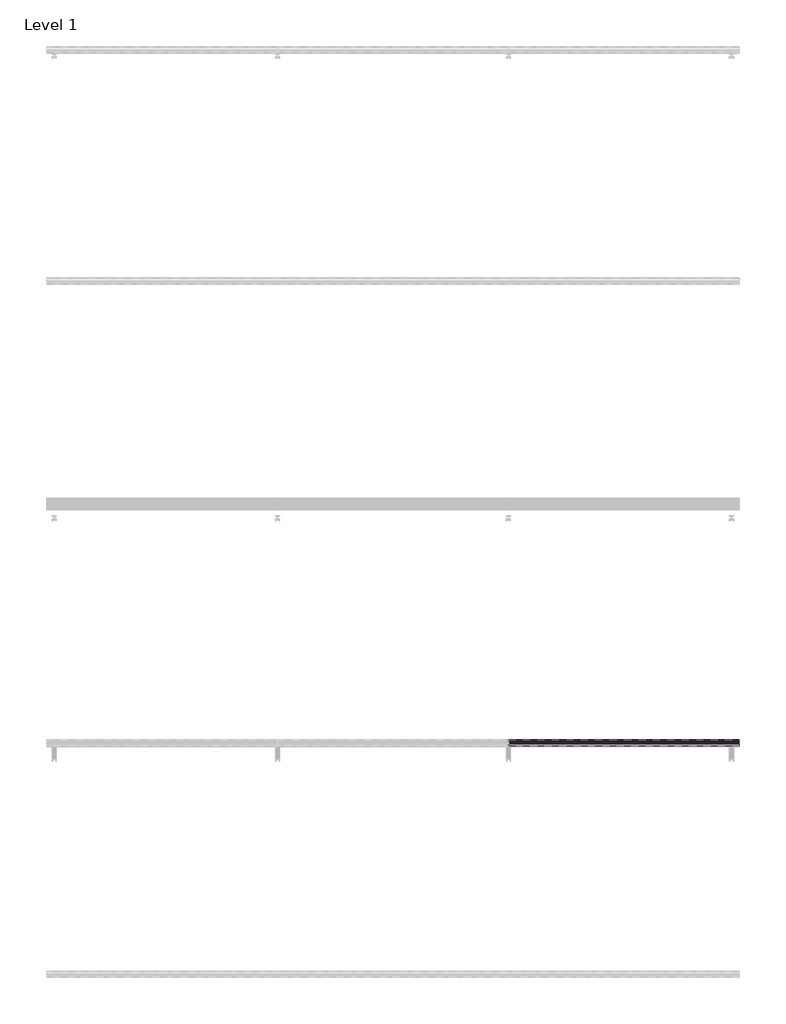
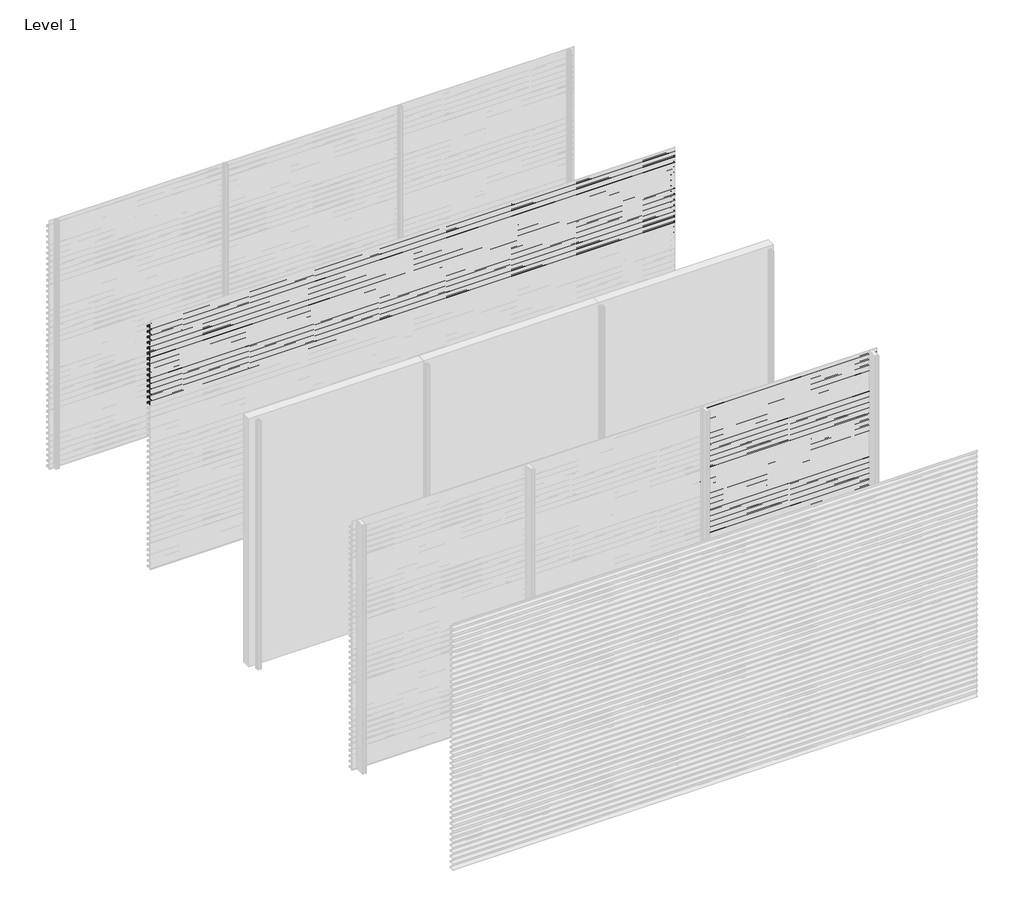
# One storey, part 7 of 27: 71 proxies.
"""IFC4 building model written with IfcOpenShell, lengths in millimetres."""

from ifc_helpers import new_model, si_unit, frame, origin, place, context, project, spatial, polyline, outline, extrude, element, save

model = new_model("IFC4")

# Units and contexts
model_context = context("Model", 3, world=origin())
ifc_project = project(units=[si_unit("LENGTHUNIT", "METRE", prefix="MILLI")], contexts=[model_context])

# Site, building, storey
site = spatial("IfcSite", under=ifc_project)
building = spatial("IfcBuilding", under=site)
storey = spatial("IfcBuildingStorey", under=building, Name="Level 1", Elevation=0.0)

# Proxies
placement = place(None, origin())
element("IfcBuildingElementProxy", 1, Name="Wall Sweeps", at=placement, inside=storey, context=model_context, shape_type="SweptSolid", body=[
    extrude(outline(polyline([(-43943.0, 2913.2), (-43943.0, 2893.5), (-43944.25, 2894.5866084), (-43944.25, 2912.4872415), (-43963.0322086, 2925.6010889), (-43995.1332975, 2893.5), (-43996.0525363, 2894.4192388), (-43964.1148087, 2926.3569665), (-43998.0, 2950.0158044), (-43998.0, 2970.0), (-43996.75, 2970.0), (-43996.75, 2950.7285629), (-43943.0, 2913.2)])), frame((0.0, 0.0, 0.0), z_axis=(1.0, 0.0, 0.0), x_axis=(0.0, 1.0, 0.0)), (0.0, 0.0, 1.0), 6000.0),
])
element("IfcBuildingElementProxy", 2, Name="Wall Sweeps", at=placement, inside=storey, context=model_context, shape_type="SweptSolid", body=[
    extrude(outline(polyline([(-43943.0, 2847.2), (-43943.0, 2827.5), (-43944.25, 2828.5866084), (-43944.25, 2846.4872415), (-43963.0322086, 2859.6010889), (-43995.1332975, 2827.5), (-43996.0525363, 2828.4192388), (-43964.1148087, 2860.3569665), (-43998.0, 2884.0158044), (-43998.0, 2904.0), (-43996.75, 2904.0), (-43996.75, 2884.7285629), (-43943.0, 2847.2)])), frame((0.0, 0.0, 0.0), z_axis=(1.0, 0.0, 0.0), x_axis=(0.0, 1.0, 0.0)), (0.0, 0.0, 1.0), 6000.0),
])
element("IfcBuildingElementProxy", 3, Name="Wall Sweeps", at=placement, inside=storey, context=model_context, shape_type="SweptSolid", body=[
    extrude(outline(polyline([(-43943.0, 2781.2), (-43943.0, 2761.5), (-43944.25, 2762.5866084), (-43944.25, 2780.4872415), (-43963.0322086, 2793.6010889), (-43995.1332975, 2761.5), (-43996.0525363, 2762.4192388), (-43964.1148087, 2794.3569665), (-43998.0, 2818.0158044), (-43998.0, 2838.0), (-43996.75, 2838.0), (-43996.75, 2818.7285629), (-43943.0, 2781.2)])), frame((0.0, 0.0, 0.0), z_axis=(1.0, 0.0, 0.0), x_axis=(0.0, 1.0, 0.0)), (0.0, 0.0, 1.0), 6000.0),
])
element("IfcBuildingElementProxy", 4, Name="Wall Sweeps", at=placement, inside=storey, context=model_context, shape_type="SweptSolid", body=[
    extrude(outline(polyline([(-43943.0, 2715.2), (-43943.0, 2695.5), (-43944.25, 2696.5866084), (-43944.25, 2714.4872415), (-43963.0322086, 2727.6010889), (-43995.1332975, 2695.5), (-43996.0525363, 2696.4192388), (-43964.1148087, 2728.3569665), (-43998.0, 2752.0158044), (-43998.0, 2772.0), (-43996.75, 2772.0), (-43996.75, 2752.7285629), (-43943.0, 2715.2)])), frame((0.0, 0.0, 0.0), z_axis=(1.0, 0.0, 0.0), x_axis=(0.0, 1.0, 0.0)), (0.0, 0.0, 1.0), 6000.0),
])
element("IfcBuildingElementProxy", 5, Name="Wall Sweeps", at=placement, inside=storey, context=model_context, shape_type="SweptSolid", body=[
    extrude(outline(polyline([(-43943.0, 2649.2), (-43943.0, 2629.5), (-43944.25, 2630.5866084), (-43944.25, 2648.4872415), (-43963.0322086, 2661.6010889), (-43995.1332975, 2629.5), (-43996.0525363, 2630.4192388), (-43964.1148087, 2662.3569665), (-43998.0, 2686.0158044), (-43998.0, 2706.0), (-43996.75, 2706.0), (-43996.75, 2686.7285629), (-43943.0, 2649.2)])), frame((0.0, 0.0, 0.0), z_axis=(1.0, 0.0, 0.0), x_axis=(0.0, 1.0, 0.0)), (0.0, 0.0, 1.0), 6000.0),
])
element("IfcBuildingElementProxy", 6, Name="Wall Sweeps", at=placement, inside=storey, context=model_context, shape_type="SweptSolid", body=[
    extrude(outline(polyline([(-43943.0, 2583.2), (-43943.0, 2563.5), (-43944.25, 2564.5866084), (-43944.25, 2582.4872415), (-43963.0322086, 2595.6010889), (-43995.1332975, 2563.5), (-43996.0525363, 2564.4192388), (-43964.1148087, 2596.3569665), (-43998.0, 2620.0158044), (-43998.0, 2640.0), (-43996.75, 2640.0), (-43996.75, 2620.7285629), (-43943.0, 2583.2)])), frame((0.0, 0.0, 0.0), z_axis=(1.0, 0.0, 0.0), x_axis=(0.0, 1.0, 0.0)), (0.0, 0.0, 1.0), 6000.0),
])
element("IfcBuildingElementProxy", 7, Name="Wall Sweeps", at=placement, inside=storey, context=model_context, shape_type="SweptSolid", body=[
    extrude(outline(polyline([(-43943.0, 2517.2), (-43943.0, 2497.5), (-43944.25, 2498.5866084), (-43944.25, 2516.4872415), (-43963.0322086, 2529.6010889), (-43995.1332975, 2497.5), (-43996.0525363, 2498.4192388), (-43964.1148087, 2530.3569665), (-43998.0, 2554.0158044), (-43998.0, 2574.0), (-43996.75, 2574.0), (-43996.75, 2554.7285629), (-43943.0, 2517.2)])), frame((0.0, 0.0, 0.0), z_axis=(1.0, 0.0, 0.0), x_axis=(0.0, 1.0, 0.0)), (0.0, 0.0, 1.0), 6000.0),
])
element("IfcBuildingElementProxy", 8, Name="Wall Sweeps", at=placement, inside=storey, context=model_context, shape_type="SweptSolid", body=[
    extrude(outline(polyline([(-43943.0, 2451.2), (-43943.0, 2431.5), (-43944.25, 2432.5866084), (-43944.25, 2450.4872415), (-43963.0322086, 2463.6010889), (-43995.1332975, 2431.5), (-43996.0525363, 2432.4192388), (-43964.1148087, 2464.3569665), (-43998.0, 2488.0158044), (-43998.0, 2508.0), (-43996.75, 2508.0), (-43996.75, 2488.7285629), (-43943.0, 2451.2)])), frame((0.0, 0.0, 0.0), z_axis=(1.0, 0.0, 0.0), x_axis=(0.0, 1.0, 0.0)), (0.0, 0.0, 1.0), 6000.0),
])
element("IfcBuildingElementProxy", 9, Name="Wall Sweeps", at=placement, inside=storey, context=model_context, shape_type="SweptSolid", body=[
    extrude(outline(polyline([(-43943.0, 2385.2), (-43943.0, 2365.5), (-43944.25, 2366.5866084), (-43944.25, 2384.4872415), (-43963.0322086, 2397.6010889), (-43995.1332975, 2365.5), (-43996.0525363, 2366.4192388), (-43964.1148087, 2398.3569665), (-43998.0, 2422.0158044), (-43998.0, 2442.0), (-43996.75, 2442.0), (-43996.75, 2422.7285629), (-43943.0, 2385.2)])), frame((0.0, 0.0, 0.0), z_axis=(1.0, 0.0, 0.0), x_axis=(0.0, 1.0, 0.0)), (0.0, 0.0, 1.0), 6000.0),
])
element("IfcBuildingElementProxy", 10, Name="Wall Sweeps", at=placement, inside=storey, context=model_context, shape_type="SweptSolid", body=[
    extrude(outline(polyline([(-43943.0, 2319.2), (-43943.0, 2299.5), (-43944.25, 2300.5866084), (-43944.25, 2318.4872415), (-43963.0322086, 2331.6010889), (-43995.1332975, 2299.5), (-43996.0525363, 2300.4192388), (-43964.1148087, 2332.3569665), (-43998.0, 2356.0158044), (-43998.0, 2376.0), (-43996.75, 2376.0), (-43996.75, 2356.7285629), (-43943.0, 2319.2)])), frame((0.0, 0.0, 0.0), z_axis=(1.0, 0.0, 0.0), x_axis=(0.0, 1.0, 0.0)), (0.0, 0.0, 1.0), 6000.0),
])
element("IfcBuildingElementProxy", 11, Name="Wall Sweeps", at=placement, inside=storey, context=model_context, shape_type="SweptSolid", body=[
    extrude(outline(polyline([(-43943.0, 2253.2), (-43943.0, 2233.5), (-43944.25, 2234.5866084), (-43944.25, 2252.4872415), (-43963.0322086, 2265.6010889), (-43995.1332975, 2233.5), (-43996.0525363, 2234.4192388), (-43964.1148087, 2266.3569665), (-43998.0, 2290.0158044), (-43998.0, 2310.0), (-43996.75, 2310.0), (-43996.75, 2290.7285629), (-43943.0, 2253.2)])), frame((0.0, 0.0, 0.0), z_axis=(1.0, 0.0, 0.0), x_axis=(0.0, 1.0, 0.0)), (0.0, 0.0, 1.0), 6000.0),
])
element("IfcBuildingElementProxy", 12, Name="Wall Sweeps", at=placement, inside=storey, context=model_context, shape_type="SweptSolid", body=[
    extrude(outline(polyline([(-43943.0, 2187.2), (-43943.0, 2167.5), (-43944.25, 2168.5866084), (-43944.25, 2186.4872415), (-43963.0322086, 2199.6010889), (-43995.1332975, 2167.5), (-43996.0525363, 2168.4192388), (-43964.1148087, 2200.3569665), (-43998.0, 2224.0158044), (-43998.0, 2244.0), (-43996.75, 2244.0), (-43996.75, 2224.7285629), (-43943.0, 2187.2)])), frame((0.0, 0.0, 0.0), z_axis=(1.0, 0.0, 0.0), x_axis=(0.0, 1.0, 0.0)), (0.0, 0.0, 1.0), 6000.0),
])
element("IfcBuildingElementProxy", 13, Name="Wall Sweeps", at=placement, inside=storey, context=model_context, shape_type="SweptSolid", body=[
    extrude(outline(polyline([(-43943.0, 2121.2), (-43943.0, 2101.5), (-43944.25, 2102.5866084), (-43944.25, 2120.4872415), (-43963.0322086, 2133.6010889), (-43995.1332975, 2101.5), (-43996.0525363, 2102.4192388), (-43964.1148087, 2134.3569665), (-43998.0, 2158.0158044), (-43998.0, 2178.0), (-43996.75, 2178.0), (-43996.75, 2158.7285629), (-43943.0, 2121.2)])), frame((0.0, 0.0, 0.0), z_axis=(1.0, 0.0, 0.0), x_axis=(0.0, 1.0, 0.0)), (0.0, 0.0, 1.0), 6000.0),
])
element("IfcBuildingElementProxy", 14, Name="Wall Sweeps", at=placement, inside=storey, context=model_context, shape_type="SweptSolid", body=[
    extrude(outline(polyline([(-43943.0, 2055.2), (-43943.0, 2035.5), (-43944.25, 2036.5866084), (-43944.25, 2054.4872415), (-43963.0322086, 2067.6010889), (-43995.1332975, 2035.5), (-43996.0525363, 2036.4192388), (-43964.1148087, 2068.3569665), (-43998.0, 2092.0158044), (-43998.0, 2112.0), (-43996.75, 2112.0), (-43996.75, 2092.7285629), (-43943.0, 2055.2)])), frame((0.0, 0.0, 0.0), z_axis=(1.0, 0.0, 0.0), x_axis=(0.0, 1.0, 0.0)), (0.0, 0.0, 1.0), 6000.0),
])
element("IfcBuildingElementProxy", 15, Name="Wall Sweeps", at=placement, inside=storey, context=model_context, shape_type="SweptSolid", body=[
    extrude(outline(polyline([(-43943.0, 1989.2), (-43943.0, 1969.5), (-43944.25, 1970.5866084), (-43944.25, 1988.4872415), (-43963.0322086, 2001.6010889), (-43995.1332975, 1969.5), (-43996.0525363, 1970.4192388), (-43964.1148087, 2002.3569665), (-43998.0, 2026.0158044), (-43998.0, 2046.0), (-43996.75, 2046.0), (-43996.75, 2026.7285629), (-43943.0, 1989.2)])), frame((0.0, 0.0, 0.0), z_axis=(1.0, 0.0, 0.0), x_axis=(0.0, 1.0, 0.0)), (0.0, 0.0, 1.0), 6000.0),
])
element("IfcBuildingElementProxy", 16, Name="Wall Sweeps", at=placement, inside=storey, context=model_context, shape_type="SweptSolid", body=[
    extrude(outline(polyline([(-47943.0, 669.2), (-47943.0, 649.5), (-47944.25, 650.5866084), (-47944.25, 668.4872415), (-47963.0322086, 681.6010889), (-47995.1332975, 649.5), (-47996.0525363, 650.4192388), (-47964.1148087, 682.3569665), (-47998.0, 706.0158044), (-47998.0, 726.0), (-47996.75, 726.0), (-47996.75, 706.7285629), (-47943.0, 669.2)])), frame((2000.0, 0.0, 0.0), z_axis=(1.0, 0.0, 0.0), x_axis=(0.0, 1.0, 0.0)), (0.0, 0.0, 1.0), 2000.0),
])
element("IfcBuildingElementProxy", 17, Name="Wall Sweeps", at=placement, inside=storey, context=model_context, shape_type="SweptSolid", body=[
    extrude(outline(polyline([(-47943.0, 603.2), (-47943.0, 583.5), (-47944.25, 584.5866084), (-47944.25, 602.4872415), (-47963.0322086, 615.6010889), (-47995.1332975, 583.5), (-47996.0525363, 584.4192388), (-47964.1148087, 616.3569665), (-47998.0, 640.0158044), (-47998.0, 660.0), (-47996.75, 660.0), (-47996.75, 640.7285629), (-47943.0, 603.2)])), frame((2000.0, 0.0, 0.0), z_axis=(1.0, 0.0, 0.0), x_axis=(0.0, 1.0, 0.0)), (0.0, 0.0, 1.0), 2000.0),
])
element("IfcBuildingElementProxy", 18, Name="Wall Sweeps", at=placement, inside=storey, context=model_context, shape_type="SweptSolid", body=[
    extrude(outline(polyline([(-47943.0, 537.2), (-47943.0, 517.5), (-47944.25, 518.5866084), (-47944.25, 536.4872415), (-47963.0322086, 549.6010889), (-47995.1332975, 517.5), (-47996.0525363, 518.4192388), (-47964.1148087, 550.3569665), (-47998.0, 574.0158044), (-47998.0, 594.0), (-47996.75, 594.0), (-47996.75, 574.7285629), (-47943.0, 537.2)])), frame((2000.0, 0.0, 0.0), z_axis=(1.0, 0.0, 0.0), x_axis=(0.0, 1.0, 0.0)), (0.0, 0.0, 1.0), 2000.0),
])
element("IfcBuildingElementProxy", 19, Name="Wall Sweeps", at=placement, inside=storey, context=model_context, shape_type="SweptSolid", body=[
    extrude(outline(polyline([(-47943.0, 471.2), (-47943.0, 451.5), (-47944.25, 452.5866084), (-47944.25, 470.4872415), (-47963.0322086, 483.6010889), (-47995.1332975, 451.5), (-47996.0525363, 452.4192388), (-47964.1148087, 484.3569665), (-47998.0, 508.0158044), (-47998.0, 528.0), (-47996.75, 528.0), (-47996.75, 508.7285629), (-47943.0, 471.2)])), frame((2000.0, 0.0, 0.0), z_axis=(1.0, 0.0, 0.0), x_axis=(0.0, 1.0, 0.0)), (0.0, 0.0, 1.0), 2000.0),
])
element("IfcBuildingElementProxy", 20, Name="Wall Sweeps", at=placement, inside=storey, context=model_context, shape_type="SweptSolid", body=[
    extrude(outline(polyline([(-47943.0, 405.2), (-47943.0, 385.5), (-47944.25, 386.5866084), (-47944.25, 404.4872415), (-47963.0322086, 417.6010889), (-47995.1332975, 385.5), (-47996.0525363, 386.4192388), (-47964.1148087, 418.3569665), (-47998.0, 442.0158044), (-47998.0, 462.0), (-47996.75, 462.0), (-47996.75, 442.7285629), (-47943.0, 405.2)])), frame((2000.0, 0.0, 0.0), z_axis=(1.0, 0.0, 0.0), x_axis=(0.0, 1.0, 0.0)), (0.0, 0.0, 1.0), 2000.0),
])
element("IfcBuildingElementProxy", 21, Name="Wall Sweeps", at=placement, inside=storey, context=model_context, shape_type="SweptSolid", body=[
    extrude(outline(polyline([(-47943.0, 339.2), (-47943.0, 319.5), (-47944.25, 320.5866084), (-47944.25, 338.4872415), (-47963.0322086, 351.6010889), (-47995.1332975, 319.5), (-47996.0525363, 320.4192388), (-47964.1148087, 352.3569665), (-47998.0, 376.0158044), (-47998.0, 396.0), (-47996.75, 396.0), (-47996.75, 376.7285629), (-47943.0, 339.2)])), frame((2000.0, 0.0, 0.0), z_axis=(1.0, 0.0, 0.0), x_axis=(0.0, 1.0, 0.0)), (0.0, 0.0, 1.0), 2000.0),
])
element("IfcBuildingElementProxy", 22, Name="Wall Sweeps", at=placement, inside=storey, context=model_context, shape_type="SweptSolid", body=[
    extrude(outline(polyline([(-47943.0, 273.2), (-47943.0, 253.5), (-47944.25, 254.5866084), (-47944.25, 272.4872415), (-47963.0322086, 285.6010889), (-47995.1332975, 253.5), (-47996.0525363, 254.4192388), (-47964.1148087, 286.3569665), (-47998.0, 310.0158044), (-47998.0, 330.0), (-47996.75, 330.0), (-47996.75, 310.7285629), (-47943.0, 273.2)])), frame((2000.0, 0.0, 0.0), z_axis=(1.0, 0.0, 0.0), x_axis=(0.0, 1.0, 0.0)), (0.0, 0.0, 1.0), 2000.0),
])
element("IfcBuildingElementProxy", 23, Name="Wall Sweeps", at=placement, inside=storey, context=model_context, shape_type="SweptSolid", body=[
    extrude(outline(polyline([(-47943.0, 207.2), (-47943.0, 187.5), (-47944.25, 188.5866084), (-47944.25, 206.4872415), (-47963.0322086, 219.6010889), (-47995.1332975, 187.5), (-47996.0525363, 188.4192388), (-47964.1148087, 220.3569665), (-47998.0, 244.0158044), (-47998.0, 264.0), (-47996.75, 264.0), (-47996.75, 244.7285629), (-47943.0, 207.2)])), frame((2000.0, 0.0, 0.0), z_axis=(1.0, 0.0, 0.0), x_axis=(0.0, 1.0, 0.0)), (0.0, 0.0, 1.0), 2000.0),
])
element("IfcBuildingElementProxy", 24, Name="Wall Sweeps", at=placement, inside=storey, context=model_context, shape_type="SweptSolid", body=[
    extrude(outline(polyline([(-47943.0, 141.2), (-47943.0, 121.5), (-47944.25, 122.5866084), (-47944.25, 140.4872415), (-47963.0322086, 153.6010889), (-47995.1332975, 121.5), (-47996.0525363, 122.4192388), (-47964.1148087, 154.3569665), (-47998.0, 178.0158044), (-47998.0, 198.0), (-47996.75, 198.0), (-47996.75, 178.7285629), (-47943.0, 141.2)])), frame((2000.0, 0.0, 0.0), z_axis=(1.0, 0.0, 0.0), x_axis=(0.0, 1.0, 0.0)), (0.0, 0.0, 1.0), 2000.0),
])
element("IfcBuildingElementProxy", 25, Name="Wall Sweeps", at=placement, inside=storey, context=model_context, shape_type="SweptSolid", body=[
    extrude(outline(polyline([(-47943.0, 75.2), (-47943.0, 55.5), (-47944.25, 56.5866084), (-47944.25, 74.4872415), (-47963.0322086, 87.6010889), (-47995.1332975, 55.5), (-47996.0525363, 56.4192388), (-47964.1148087, 88.3569665), (-47998.0, 112.0158044), (-47998.0, 132.0), (-47996.75, 132.0), (-47996.75, 112.7285629), (-47943.0, 75.2)])), frame((2000.0, 0.0, 0.0), z_axis=(1.0, 0.0, 0.0), x_axis=(0.0, 1.0, 0.0)), (0.0, 0.0, 1.0), 2000.0),
])
element("IfcBuildingElementProxy", 26, Name="Wall Sweeps", at=placement, inside=storey, context=model_context, shape_type="SweptSolid", body=[
    extrude(outline(polyline([(-47943.0, 9.2), (-47943.0, -10.5), (-47944.25, -9.4133916), (-47944.25, 8.4872415), (-47963.0322086, 21.6010889), (-47995.1332975, -10.5), (-47996.0525363, -9.5807612), (-47964.1148087, 22.3569665), (-47998.0, 46.0158044), (-47998.0, 66.0), (-47996.75, 66.0), (-47996.75, 46.7285629), (-47943.0, 9.2)])), frame((2000.0, 0.0, 0.0), z_axis=(1.0, 0.0, 0.0), x_axis=(0.0, 1.0, 0.0)), (0.0, 0.0, 1.0), 2000.0),
])
element("IfcBuildingElementProxy", 27, Name="Wall Sweeps", at=placement, inside=storey, context=model_context, shape_type="SweptSolid", body=[
    extrude(outline(polyline([(-47943.0, 2913.2), (-47943.0, 2893.5), (-47944.25, 2894.5866084), (-47944.25, 2912.4872415), (-47963.0322086, 2925.6010889), (-47995.1332975, 2893.5), (-47996.0525363, 2894.4192388), (-47964.1148087, 2926.3569665), (-47998.0, 2950.0158044), (-47998.0, 2970.0), (-47996.75, 2970.0), (-47996.75, 2950.7285629), (-47943.0, 2913.2)])), frame((4000.0, 0.0, 0.0), z_axis=(1.0, 0.0, 0.0), x_axis=(0.0, 1.0, 0.0)), (0.0, 0.0, 1.0), 2000.0),
])
element("IfcBuildingElementProxy", 28, Name="Wall Sweeps", at=placement, inside=storey, context=model_context, shape_type="SweptSolid", body=[
    extrude(outline(polyline([(-47943.0, 2847.2), (-47943.0, 2827.5), (-47944.25, 2828.5866084), (-47944.25, 2846.4872415), (-47963.0322086, 2859.6010889), (-47995.1332975, 2827.5), (-47996.0525363, 2828.4192388), (-47964.1148087, 2860.3569665), (-47998.0, 2884.0158044), (-47998.0, 2904.0), (-47996.75, 2904.0), (-47996.75, 2884.7285629), (-47943.0, 2847.2)])), frame((4000.0, 0.0, 0.0), z_axis=(1.0, 0.0, 0.0), x_axis=(0.0, 1.0, 0.0)), (0.0, 0.0, 1.0), 2000.0),
])
element("IfcBuildingElementProxy", 29, Name="Wall Sweeps", at=placement, inside=storey, context=model_context, shape_type="SweptSolid", body=[
    extrude(outline(polyline([(-47943.0, 2781.2), (-47943.0, 2761.5), (-47944.25, 2762.5866084), (-47944.25, 2780.4872415), (-47963.0322086, 2793.6010889), (-47995.1332975, 2761.5), (-47996.0525363, 2762.4192388), (-47964.1148087, 2794.3569665), (-47998.0, 2818.0158044), (-47998.0, 2838.0), (-47996.75, 2838.0), (-47996.75, 2818.7285629), (-47943.0, 2781.2)])), frame((4000.0, 0.0, 0.0), z_axis=(1.0, 0.0, 0.0), x_axis=(0.0, 1.0, 0.0)), (0.0, 0.0, 1.0), 2000.0),
])
element("IfcBuildingElementProxy", 30, Name="Wall Sweeps", at=placement, inside=storey, context=model_context, shape_type="SweptSolid", body=[
    extrude(outline(polyline([(-47943.0, 2715.2), (-47943.0, 2695.5), (-47944.25, 2696.5866084), (-47944.25, 2714.4872415), (-47963.0322086, 2727.6010889), (-47995.1332975, 2695.5), (-47996.0525363, 2696.4192388), (-47964.1148087, 2728.3569665), (-47998.0, 2752.0158044), (-47998.0, 2772.0), (-47996.75, 2772.0), (-47996.75, 2752.7285629), (-47943.0, 2715.2)])), frame((4000.0, 0.0, 0.0), z_axis=(1.0, 0.0, 0.0), x_axis=(0.0, 1.0, 0.0)), (0.0, 0.0, 1.0), 2000.0),
])
element("IfcBuildingElementProxy", 31, Name="Wall Sweeps", at=placement, inside=storey, context=model_context, shape_type="SweptSolid", body=[
    extrude(outline(polyline([(-47943.0, 2649.2), (-47943.0, 2629.5), (-47944.25, 2630.5866084), (-47944.25, 2648.4872415), (-47963.0322086, 2661.6010889), (-47995.1332975, 2629.5), (-47996.0525363, 2630.4192388), (-47964.1148087, 2662.3569665), (-47998.0, 2686.0158044), (-47998.0, 2706.0), (-47996.75, 2706.0), (-47996.75, 2686.7285629), (-47943.0, 2649.2)])), frame((4000.0, 0.0, 0.0), z_axis=(1.0, 0.0, 0.0), x_axis=(0.0, 1.0, 0.0)), (0.0, 0.0, 1.0), 2000.0),
])
element("IfcBuildingElementProxy", 32, Name="Wall Sweeps", at=placement, inside=storey, context=model_context, shape_type="SweptSolid", body=[
    extrude(outline(polyline([(-47943.0, 2583.2), (-47943.0, 2563.5), (-47944.25, 2564.5866084), (-47944.25, 2582.4872415), (-47963.0322086, 2595.6010889), (-47995.1332975, 2563.5), (-47996.0525363, 2564.4192388), (-47964.1148087, 2596.3569665), (-47998.0, 2620.0158044), (-47998.0, 2640.0), (-47996.75, 2640.0), (-47996.75, 2620.7285629), (-47943.0, 2583.2)])), frame((4000.0, 0.0, 0.0), z_axis=(1.0, 0.0, 0.0), x_axis=(0.0, 1.0, 0.0)), (0.0, 0.0, 1.0), 2000.0),
])
element("IfcBuildingElementProxy", 33, Name="Wall Sweeps", at=placement, inside=storey, context=model_context, shape_type="SweptSolid", body=[
    extrude(outline(polyline([(-47943.0, 2517.2), (-47943.0, 2497.5), (-47944.25, 2498.5866084), (-47944.25, 2516.4872415), (-47963.0322086, 2529.6010889), (-47995.1332975, 2497.5), (-47996.0525363, 2498.4192388), (-47964.1148087, 2530.3569665), (-47998.0, 2554.0158044), (-47998.0, 2574.0), (-47996.75, 2574.0), (-47996.75, 2554.7285629), (-47943.0, 2517.2)])), frame((4000.0, 0.0, 0.0), z_axis=(1.0, 0.0, 0.0), x_axis=(0.0, 1.0, 0.0)), (0.0, 0.0, 1.0), 2000.0),
])
element("IfcBuildingElementProxy", 34, Name="Wall Sweeps", at=placement, inside=storey, context=model_context, shape_type="SweptSolid", body=[
    extrude(outline(polyline([(-47943.0, 2451.2), (-47943.0, 2431.5), (-47944.25, 2432.5866084), (-47944.25, 2450.4872415), (-47963.0322086, 2463.6010889), (-47995.1332975, 2431.5), (-47996.0525363, 2432.4192388), (-47964.1148087, 2464.3569665), (-47998.0, 2488.0158044), (-47998.0, 2508.0), (-47996.75, 2508.0), (-47996.75, 2488.7285629), (-47943.0, 2451.2)])), frame((4000.0, 0.0, 0.0), z_axis=(1.0, 0.0, 0.0), x_axis=(0.0, 1.0, 0.0)), (0.0, 0.0, 1.0), 2000.0),
])
element("IfcBuildingElementProxy", 35, Name="Wall Sweeps", at=placement, inside=storey, context=model_context, shape_type="SweptSolid", body=[
    extrude(outline(polyline([(-47943.0, 2385.2), (-47943.0, 2365.5), (-47944.25, 2366.5866084), (-47944.25, 2384.4872415), (-47963.0322086, 2397.6010889), (-47995.1332975, 2365.5), (-47996.0525363, 2366.4192388), (-47964.1148087, 2398.3569665), (-47998.0, 2422.0158044), (-47998.0, 2442.0), (-47996.75, 2442.0), (-47996.75, 2422.7285629), (-47943.0, 2385.2)])), frame((4000.0, 0.0, 0.0), z_axis=(1.0, 0.0, 0.0), x_axis=(0.0, 1.0, 0.0)), (0.0, 0.0, 1.0), 2000.0),
])
element("IfcBuildingElementProxy", 36, Name="Wall Sweeps", at=placement, inside=storey, context=model_context, shape_type="SweptSolid", body=[
    extrude(outline(polyline([(-47943.0, 2319.2), (-47943.0, 2299.5), (-47944.25, 2300.5866084), (-47944.25, 2318.4872415), (-47963.0322086, 2331.6010889), (-47995.1332975, 2299.5), (-47996.0525363, 2300.4192388), (-47964.1148087, 2332.3569665), (-47998.0, 2356.0158044), (-47998.0, 2376.0), (-47996.75, 2376.0), (-47996.75, 2356.7285629), (-47943.0, 2319.2)])), frame((4000.0, 0.0, 0.0), z_axis=(1.0, 0.0, 0.0), x_axis=(0.0, 1.0, 0.0)), (0.0, 0.0, 1.0), 2000.0),
])
element("IfcBuildingElementProxy", 37, Name="Wall Sweeps", at=placement, inside=storey, context=model_context, shape_type="SweptSolid", body=[
    extrude(outline(polyline([(-47943.0, 2253.2), (-47943.0, 2233.5), (-47944.25, 2234.5866084), (-47944.25, 2252.4872415), (-47963.0322086, 2265.6010889), (-47995.1332975, 2233.5), (-47996.0525363, 2234.4192388), (-47964.1148087, 2266.3569665), (-47998.0, 2290.0158044), (-47998.0, 2310.0), (-47996.75, 2310.0), (-47996.75, 2290.7285629), (-47943.0, 2253.2)])), frame((4000.0, 0.0, 0.0), z_axis=(1.0, 0.0, 0.0), x_axis=(0.0, 1.0, 0.0)), (0.0, 0.0, 1.0), 2000.0),
])
element("IfcBuildingElementProxy", 38, Name="Wall Sweeps", at=placement, inside=storey, context=model_context, shape_type="SweptSolid", body=[
    extrude(outline(polyline([(-47943.0, 2187.2), (-47943.0, 2167.5), (-47944.25, 2168.5866084), (-47944.25, 2186.4872415), (-47963.0322086, 2199.6010889), (-47995.1332975, 2167.5), (-47996.0525363, 2168.4192388), (-47964.1148087, 2200.3569665), (-47998.0, 2224.0158044), (-47998.0, 2244.0), (-47996.75, 2244.0), (-47996.75, 2224.7285629), (-47943.0, 2187.2)])), frame((4000.0, 0.0, 0.0), z_axis=(1.0, 0.0, 0.0), x_axis=(0.0, 1.0, 0.0)), (0.0, 0.0, 1.0), 2000.0),
])
element("IfcBuildingElementProxy", 39, Name="Wall Sweeps", at=placement, inside=storey, context=model_context, shape_type="SweptSolid", body=[
    extrude(outline(polyline([(-47943.0, 2121.2), (-47943.0, 2101.5), (-47944.25, 2102.5866084), (-47944.25, 2120.4872415), (-47963.0322086, 2133.6010889), (-47995.1332975, 2101.5), (-47996.0525363, 2102.4192388), (-47964.1148087, 2134.3569665), (-47998.0, 2158.0158044), (-47998.0, 2178.0), (-47996.75, 2178.0), (-47996.75, 2158.7285629), (-47943.0, 2121.2)])), frame((4000.0, 0.0, 0.0), z_axis=(1.0, 0.0, 0.0), x_axis=(0.0, 1.0, 0.0)), (0.0, 0.0, 1.0), 2000.0),
])
element("IfcBuildingElementProxy", 40, Name="Wall Sweeps", at=placement, inside=storey, context=model_context, shape_type="SweptSolid", body=[
    extrude(outline(polyline([(-47943.0, 2055.2), (-47943.0, 2035.5), (-47944.25, 2036.5866084), (-47944.25, 2054.4872415), (-47963.0322086, 2067.6010889), (-47995.1332975, 2035.5), (-47996.0525363, 2036.4192388), (-47964.1148087, 2068.3569665), (-47998.0, 2092.0158044), (-47998.0, 2112.0), (-47996.75, 2112.0), (-47996.75, 2092.7285629), (-47943.0, 2055.2)])), frame((4000.0, 0.0, 0.0), z_axis=(1.0, 0.0, 0.0), x_axis=(0.0, 1.0, 0.0)), (0.0, 0.0, 1.0), 2000.0),
])
element("IfcBuildingElementProxy", 41, Name="Wall Sweeps", at=placement, inside=storey, context=model_context, shape_type="SweptSolid", body=[
    extrude(outline(polyline([(-47943.0, 1989.2), (-47943.0, 1969.5), (-47944.25, 1970.5866084), (-47944.25, 1988.4872415), (-47963.0322086, 2001.6010889), (-47995.1332975, 1969.5), (-47996.0525363, 1970.4192388), (-47964.1148087, 2002.3569665), (-47998.0, 2026.0158044), (-47998.0, 2046.0), (-47996.75, 2046.0), (-47996.75, 2026.7285629), (-47943.0, 1989.2)])), frame((4000.0, 0.0, 0.0), z_axis=(1.0, 0.0, 0.0), x_axis=(0.0, 1.0, 0.0)), (0.0, 0.0, 1.0), 2000.0),
])
element("IfcBuildingElementProxy", 42, Name="Wall Sweeps", at=placement, inside=storey, context=model_context, shape_type="SweptSolid", body=[
    extrude(outline(polyline([(-47943.0, 1923.2), (-47943.0, 1903.5), (-47944.25, 1904.5866084), (-47944.25, 1922.4872415), (-47963.0322086, 1935.6010889), (-47995.1332975, 1903.5), (-47996.0525363, 1904.4192388), (-47964.1148087, 1936.3569665), (-47998.0, 1960.0158044), (-47998.0, 1980.0), (-47996.75, 1980.0), (-47996.75, 1960.7285629), (-47943.0, 1923.2)])), frame((4000.0, 0.0, 0.0), z_axis=(1.0, 0.0, 0.0), x_axis=(0.0, 1.0, 0.0)), (0.0, 0.0, 1.0), 2000.0),
])
element("IfcBuildingElementProxy", 43, Name="Wall Sweeps", at=placement, inside=storey, context=model_context, shape_type="SweptSolid", body=[
    extrude(outline(polyline([(-47943.0, 1857.2), (-47943.0, 1837.5), (-47944.25, 1838.5866084), (-47944.25, 1856.4872415), (-47963.0322086, 1869.6010889), (-47995.1332975, 1837.5), (-47996.0525363, 1838.4192388), (-47964.1148087, 1870.3569665), (-47998.0, 1894.0158044), (-47998.0, 1914.0), (-47996.75, 1914.0), (-47996.75, 1894.7285629), (-47943.0, 1857.2)])), frame((4000.0, 0.0, 0.0), z_axis=(1.0, 0.0, 0.0), x_axis=(0.0, 1.0, 0.0)), (0.0, 0.0, 1.0), 2000.0),
])
element("IfcBuildingElementProxy", 44, Name="Wall Sweeps", at=placement, inside=storey, context=model_context, shape_type="SweptSolid", body=[
    extrude(outline(polyline([(-47943.0, 1791.2), (-47943.0, 1771.5), (-47944.25, 1772.5866084), (-47944.25, 1790.4872415), (-47963.0322086, 1803.6010889), (-47995.1332975, 1771.5), (-47996.0525363, 1772.4192388), (-47964.1148087, 1804.3569665), (-47998.0, 1828.0158044), (-47998.0, 1848.0), (-47996.75, 1848.0), (-47996.75, 1828.7285629), (-47943.0, 1791.2)])), frame((4000.0, 0.0, 0.0), z_axis=(1.0, 0.0, 0.0), x_axis=(0.0, 1.0, 0.0)), (0.0, 0.0, 1.0), 2000.0),
])
element("IfcBuildingElementProxy", 45, Name="Wall Sweeps", at=placement, inside=storey, context=model_context, shape_type="SweptSolid", body=[
    extrude(outline(polyline([(-47943.0, 1725.2), (-47943.0, 1705.5), (-47944.25, 1706.5866084), (-47944.25, 1724.4872415), (-47963.0322086, 1737.6010889), (-47995.1332975, 1705.5), (-47996.0525363, 1706.4192388), (-47964.1148087, 1738.3569665), (-47998.0, 1762.0158044), (-47998.0, 1782.0), (-47996.75, 1782.0), (-47996.75, 1762.7285629), (-47943.0, 1725.2)])), frame((4000.0, 0.0, 0.0), z_axis=(1.0, 0.0, 0.0), x_axis=(0.0, 1.0, 0.0)), (0.0, 0.0, 1.0), 2000.0),
])
element("IfcBuildingElementProxy", 46, Name="Wall Sweeps", at=placement, inside=storey, context=model_context, shape_type="SweptSolid", body=[
    extrude(outline(polyline([(-47943.0, 1659.2), (-47943.0, 1639.5), (-47944.25, 1640.5866084), (-47944.25, 1658.4872415), (-47963.0322086, 1671.6010889), (-47995.1332975, 1639.5), (-47996.0525363, 1640.4192388), (-47964.1148087, 1672.3569665), (-47998.0, 1696.0158044), (-47998.0, 1716.0), (-47996.75, 1716.0), (-47996.75, 1696.7285629), (-47943.0, 1659.2)])), frame((4000.0, 0.0, 0.0), z_axis=(1.0, 0.0, 0.0), x_axis=(0.0, 1.0, 0.0)), (0.0, 0.0, 1.0), 2000.0),
])
element("IfcBuildingElementProxy", 47, Name="Wall Sweeps", at=placement, inside=storey, context=model_context, shape_type="SweptSolid", body=[
    extrude(outline(polyline([(-47943.0, 1593.2), (-47943.0, 1573.5), (-47944.25, 1574.5866084), (-47944.25, 1592.4872415), (-47963.0322086, 1605.6010889), (-47995.1332975, 1573.5), (-47996.0525363, 1574.4192388), (-47964.1148087, 1606.3569665), (-47998.0, 1630.0158044), (-47998.0, 1650.0), (-47996.75, 1650.0), (-47996.75, 1630.7285629), (-47943.0, 1593.2)])), frame((4000.0, 0.0, 0.0), z_axis=(1.0, 0.0, 0.0), x_axis=(0.0, 1.0, 0.0)), (0.0, 0.0, 1.0), 2000.0),
])
element("IfcBuildingElementProxy", 48, Name="Wall Sweeps", at=placement, inside=storey, context=model_context, shape_type="SweptSolid", body=[
    extrude(outline(polyline([(-47943.0, 1527.2), (-47943.0, 1507.5), (-47944.25, 1508.5866084), (-47944.25, 1526.4872415), (-47963.0322086, 1539.6010889), (-47995.1332975, 1507.5), (-47996.0525363, 1508.4192388), (-47964.1148087, 1540.3569665), (-47998.0, 1564.0158044), (-47998.0, 1584.0), (-47996.75, 1584.0), (-47996.75, 1564.7285629), (-47943.0, 1527.2)])), frame((4000.0, 0.0, 0.0), z_axis=(1.0, 0.0, 0.0), x_axis=(0.0, 1.0, 0.0)), (0.0, 0.0, 1.0), 2000.0),
])
element("IfcBuildingElementProxy", 49, Name="Wall Sweeps", at=placement, inside=storey, context=model_context, shape_type="SweptSolid", body=[
    extrude(outline(polyline([(-47943.0, 1461.2), (-47943.0, 1441.5), (-47944.25, 1442.5866084), (-47944.25, 1460.4872415), (-47963.0322086, 1473.6010889), (-47995.1332975, 1441.5), (-47996.0525363, 1442.4192388), (-47964.1148087, 1474.3569665), (-47998.0, 1498.0158044), (-47998.0, 1518.0), (-47996.75, 1518.0), (-47996.75, 1498.7285629), (-47943.0, 1461.2)])), frame((4000.0, 0.0, 0.0), z_axis=(1.0, 0.0, 0.0), x_axis=(0.0, 1.0, 0.0)), (0.0, 0.0, 1.0), 2000.0),
])
element("IfcBuildingElementProxy", 50, Name="Wall Sweeps", at=placement, inside=storey, context=model_context, shape_type="SweptSolid", body=[
    extrude(outline(polyline([(-47943.0, 1395.2), (-47943.0, 1375.5), (-47944.25, 1376.5866084), (-47944.25, 1394.4872415), (-47963.0322086, 1407.6010889), (-47995.1332975, 1375.5), (-47996.0525363, 1376.4192388), (-47964.1148087, 1408.3569665), (-47998.0, 1432.0158044), (-47998.0, 1452.0), (-47996.75, 1452.0), (-47996.75, 1432.7285629), (-47943.0, 1395.2)])), frame((4000.0, 0.0, 0.0), z_axis=(1.0, 0.0, 0.0), x_axis=(0.0, 1.0, 0.0)), (0.0, 0.0, 1.0), 2000.0),
])
element("IfcBuildingElementProxy", 51, Name="Wall Sweeps", at=placement, inside=storey, context=model_context, shape_type="SweptSolid", body=[
    extrude(outline(polyline([(-47943.0, 1329.2), (-47943.0, 1309.5), (-47944.25, 1310.5866084), (-47944.25, 1328.4872415), (-47963.0322086, 1341.6010889), (-47995.1332975, 1309.5), (-47996.0525363, 1310.4192388), (-47964.1148087, 1342.3569665), (-47998.0, 1366.0158044), (-47998.0, 1386.0), (-47996.75, 1386.0), (-47996.75, 1366.7285629), (-47943.0, 1329.2)])), frame((4000.0, 0.0, 0.0), z_axis=(1.0, 0.0, 0.0), x_axis=(0.0, 1.0, 0.0)), (0.0, 0.0, 1.0), 2000.0),
])
element("IfcBuildingElementProxy", 52, Name="Wall Sweeps", at=placement, inside=storey, context=model_context, shape_type="SweptSolid", body=[
    extrude(outline(polyline([(-47943.0, 1263.2), (-47943.0, 1243.5), (-47944.25, 1244.5866084), (-47944.25, 1262.4872415), (-47963.0322086, 1275.6010889), (-47995.1332975, 1243.5), (-47996.0525363, 1244.4192388), (-47964.1148087, 1276.3569665), (-47998.0, 1300.0158044), (-47998.0, 1320.0), (-47996.75, 1320.0), (-47996.75, 1300.7285629), (-47943.0, 1263.2)])), frame((4000.0, 0.0, 0.0), z_axis=(1.0, 0.0, 0.0), x_axis=(0.0, 1.0, 0.0)), (0.0, 0.0, 1.0), 2000.0),
])
element("IfcBuildingElementProxy", 53, Name="Wall Sweeps", at=placement, inside=storey, context=model_context, shape_type="SweptSolid", body=[
    extrude(outline(polyline([(-47943.0, 1197.2), (-47943.0, 1177.5), (-47944.25, 1178.5866084), (-47944.25, 1196.4872415), (-47963.0322086, 1209.6010889), (-47995.1332975, 1177.5), (-47996.0525363, 1178.4192388), (-47964.1148087, 1210.3569665), (-47998.0, 1234.0158044), (-47998.0, 1254.0), (-47996.75, 1254.0), (-47996.75, 1234.7285629), (-47943.0, 1197.2)])), frame((4000.0, 0.0, 0.0), z_axis=(1.0, 0.0, 0.0), x_axis=(0.0, 1.0, 0.0)), (0.0, 0.0, 1.0), 2000.0),
])
element("IfcBuildingElementProxy", 54, Name="Wall Sweeps", at=placement, inside=storey, context=model_context, shape_type="SweptSolid", body=[
    extrude(outline(polyline([(-47943.0, 1131.2), (-47943.0, 1111.5), (-47944.25, 1112.5866084), (-47944.25, 1130.4872415), (-47963.0322086, 1143.6010889), (-47995.1332975, 1111.5), (-47996.0525363, 1112.4192388), (-47964.1148087, 1144.3569665), (-47998.0, 1168.0158044), (-47998.0, 1188.0), (-47996.75, 1188.0), (-47996.75, 1168.7285629), (-47943.0, 1131.2)])), frame((4000.0, 0.0, 0.0), z_axis=(1.0, 0.0, 0.0), x_axis=(0.0, 1.0, 0.0)), (0.0, 0.0, 1.0), 2000.0),
])
element("IfcBuildingElementProxy", 55, Name="Wall Sweeps", at=placement, inside=storey, context=model_context, shape_type="SweptSolid", body=[
    extrude(outline(polyline([(-47943.0, 1065.2), (-47943.0, 1045.5), (-47944.25, 1046.5866084), (-47944.25, 1064.4872415), (-47963.0322086, 1077.6010889), (-47995.1332975, 1045.5), (-47996.0525363, 1046.4192388), (-47964.1148087, 1078.3569665), (-47998.0, 1102.0158044), (-47998.0, 1122.0), (-47996.75, 1122.0), (-47996.75, 1102.7285629), (-47943.0, 1065.2)])), frame((4000.0, 0.0, 0.0), z_axis=(1.0, 0.0, 0.0), x_axis=(0.0, 1.0, 0.0)), (0.0, 0.0, 1.0), 2000.0),
])
element("IfcBuildingElementProxy", 56, Name="Wall Sweeps", at=placement, inside=storey, context=model_context, shape_type="SweptSolid", body=[
    extrude(outline(polyline([(-47943.0, 999.2), (-47943.0, 979.5), (-47944.25, 980.5866084), (-47944.25, 998.4872415), (-47963.0322086, 1011.6010889), (-47995.1332975, 979.5), (-47996.0525363, 980.4192388), (-47964.1148087, 1012.3569665), (-47998.0, 1036.0158044), (-47998.0, 1056.0), (-47996.75, 1056.0), (-47996.75, 1036.7285629), (-47943.0, 999.2)])), frame((4000.0, 0.0, 0.0), z_axis=(1.0, 0.0, 0.0), x_axis=(0.0, 1.0, 0.0)), (0.0, 0.0, 1.0), 2000.0),
])
element("IfcBuildingElementProxy", 57, Name="Wall Sweeps", at=placement, inside=storey, context=model_context, shape_type="SweptSolid", body=[
    extrude(outline(polyline([(-47943.0, 933.2), (-47943.0, 913.5), (-47944.25, 914.5866084), (-47944.25, 932.4872415), (-47963.0322086, 945.6010889), (-47995.1332975, 913.5), (-47996.0525363, 914.4192388), (-47964.1148087, 946.3569665), (-47998.0, 970.0158044), (-47998.0, 990.0), (-47996.75, 990.0), (-47996.75, 970.7285629), (-47943.0, 933.2)])), frame((4000.0, 0.0, 0.0), z_axis=(1.0, 0.0, 0.0), x_axis=(0.0, 1.0, 0.0)), (0.0, 0.0, 1.0), 2000.0),
])
element("IfcBuildingElementProxy", 58, Name="Wall Sweeps", at=placement, inside=storey, context=model_context, shape_type="SweptSolid", body=[
    extrude(outline(polyline([(-47943.0, 867.2), (-47943.0, 847.5), (-47944.25, 848.5866084), (-47944.25, 866.4872415), (-47963.0322086, 879.6010889), (-47995.1332975, 847.5), (-47996.0525363, 848.4192388), (-47964.1148087, 880.3569665), (-47998.0, 904.0158044), (-47998.0, 924.0), (-47996.75, 924.0), (-47996.75, 904.7285629), (-47943.0, 867.2)])), frame((4000.0, 0.0, 0.0), z_axis=(1.0, 0.0, 0.0), x_axis=(0.0, 1.0, 0.0)), (0.0, 0.0, 1.0), 2000.0),
])
element("IfcBuildingElementProxy", 59, Name="Wall Sweeps", at=placement, inside=storey, context=model_context, shape_type="SweptSolid", body=[
    extrude(outline(polyline([(-47943.0, 801.2), (-47943.0, 781.5), (-47944.25, 782.5866084), (-47944.25, 800.4872415), (-47963.0322086, 813.6010889), (-47995.1332975, 781.5), (-47996.0525363, 782.4192388), (-47964.1148087, 814.3569665), (-47998.0, 838.0158044), (-47998.0, 858.0), (-47996.75, 858.0), (-47996.75, 838.7285629), (-47943.0, 801.2)])), frame((4000.0, 0.0, 0.0), z_axis=(1.0, 0.0, 0.0), x_axis=(0.0, 1.0, 0.0)), (0.0, 0.0, 1.0), 2000.0),
])
element("IfcBuildingElementProxy", 60, Name="Wall Sweeps", at=placement, inside=storey, context=model_context, shape_type="SweptSolid", body=[
    extrude(outline(polyline([(-47943.0, 735.2), (-47943.0, 715.5), (-47944.25, 716.5866084), (-47944.25, 734.4872415), (-47963.0322086, 747.6010889), (-47995.1332975, 715.5), (-47996.0525363, 716.4192388), (-47964.1148087, 748.3569665), (-47998.0, 772.0158044), (-47998.0, 792.0), (-47996.75, 792.0), (-47996.75, 772.7285629), (-47943.0, 735.2)])), frame((4000.0, 0.0, 0.0), z_axis=(1.0, 0.0, 0.0), x_axis=(0.0, 1.0, 0.0)), (0.0, 0.0, 1.0), 2000.0),
])
element("IfcBuildingElementProxy", 61, Name="Wall Sweeps", at=placement, inside=storey, context=model_context, shape_type="SweptSolid", body=[
    extrude(outline(polyline([(-47943.0, 669.2), (-47943.0, 649.5), (-47944.25, 650.5866084), (-47944.25, 668.4872415), (-47963.0322086, 681.6010889), (-47995.1332975, 649.5), (-47996.0525363, 650.4192388), (-47964.1148087, 682.3569665), (-47998.0, 706.0158044), (-47998.0, 726.0), (-47996.75, 726.0), (-47996.75, 706.7285629), (-47943.0, 669.2)])), frame((4000.0, 0.0, 0.0), z_axis=(1.0, 0.0, 0.0), x_axis=(0.0, 1.0, 0.0)), (0.0, 0.0, 1.0), 2000.0),
])
element("IfcBuildingElementProxy", 62, Name="Wall Sweeps", at=placement, inside=storey, context=model_context, shape_type="SweptSolid", body=[
    extrude(outline(polyline([(-47943.0, 603.2), (-47943.0, 583.5), (-47944.25, 584.5866084), (-47944.25, 602.4872415), (-47963.0322086, 615.6010889), (-47995.1332975, 583.5), (-47996.0525363, 584.4192388), (-47964.1148087, 616.3569665), (-47998.0, 640.0158044), (-47998.0, 660.0), (-47996.75, 660.0), (-47996.75, 640.7285629), (-47943.0, 603.2)])), frame((4000.0, 0.0, 0.0), z_axis=(1.0, 0.0, 0.0), x_axis=(0.0, 1.0, 0.0)), (0.0, 0.0, 1.0), 2000.0),
])
element("IfcBuildingElementProxy", 63, Name="Wall Sweeps", at=placement, inside=storey, context=model_context, shape_type="SweptSolid", body=[
    extrude(outline(polyline([(-47943.0, 537.2), (-47943.0, 517.5), (-47944.25, 518.5866084), (-47944.25, 536.4872415), (-47963.0322086, 549.6010889), (-47995.1332975, 517.5), (-47996.0525363, 518.4192388), (-47964.1148087, 550.3569665), (-47998.0, 574.0158044), (-47998.0, 594.0), (-47996.75, 594.0), (-47996.75, 574.7285629), (-47943.0, 537.2)])), frame((4000.0, 0.0, 0.0), z_axis=(1.0, 0.0, 0.0), x_axis=(0.0, 1.0, 0.0)), (0.0, 0.0, 1.0), 2000.0),
])
element("IfcBuildingElementProxy", 64, Name="Wall Sweeps", at=placement, inside=storey, context=model_context, shape_type="SweptSolid", body=[
    extrude(outline(polyline([(-47943.0, 471.2), (-47943.0, 451.5), (-47944.25, 452.5866084), (-47944.25, 470.4872415), (-47963.0322086, 483.6010889), (-47995.1332975, 451.5), (-47996.0525363, 452.4192388), (-47964.1148087, 484.3569665), (-47998.0, 508.0158044), (-47998.0, 528.0), (-47996.75, 528.0), (-47996.75, 508.7285629), (-47943.0, 471.2)])), frame((4000.0, 0.0, 0.0), z_axis=(1.0, 0.0, 0.0), x_axis=(0.0, 1.0, 0.0)), (0.0, 0.0, 1.0), 2000.0),
])
element("IfcBuildingElementProxy", 65, Name="Wall Sweeps", at=placement, inside=storey, context=model_context, shape_type="SweptSolid", body=[
    extrude(outline(polyline([(-47943.0, 405.2), (-47943.0, 385.5), (-47944.25, 386.5866084), (-47944.25, 404.4872415), (-47963.0322086, 417.6010889), (-47995.1332975, 385.5), (-47996.0525363, 386.4192388), (-47964.1148087, 418.3569665), (-47998.0, 442.0158044), (-47998.0, 462.0), (-47996.75, 462.0), (-47996.75, 442.7285629), (-47943.0, 405.2)])), frame((4000.0, 0.0, 0.0), z_axis=(1.0, 0.0, 0.0), x_axis=(0.0, 1.0, 0.0)), (0.0, 0.0, 1.0), 2000.0),
])
element("IfcBuildingElementProxy", 66, Name="Wall Sweeps", at=placement, inside=storey, context=model_context, shape_type="SweptSolid", body=[
    extrude(outline(polyline([(-47943.0, 339.2), (-47943.0, 319.5), (-47944.25, 320.5866084), (-47944.25, 338.4872415), (-47963.0322086, 351.6010889), (-47995.1332975, 319.5), (-47996.0525363, 320.4192388), (-47964.1148087, 352.3569665), (-47998.0, 376.0158044), (-47998.0, 396.0), (-47996.75, 396.0), (-47996.75, 376.7285629), (-47943.0, 339.2)])), frame((4000.0, 0.0, 0.0), z_axis=(1.0, 0.0, 0.0), x_axis=(0.0, 1.0, 0.0)), (0.0, 0.0, 1.0), 2000.0),
])
element("IfcBuildingElementProxy", 67, Name="Wall Sweeps", at=placement, inside=storey, context=model_context, shape_type="SweptSolid", body=[
    extrude(outline(polyline([(-47943.0, 273.2), (-47943.0, 253.5), (-47944.25, 254.5866084), (-47944.25, 272.4872415), (-47963.0322086, 285.6010889), (-47995.1332975, 253.5), (-47996.0525363, 254.4192388), (-47964.1148087, 286.3569665), (-47998.0, 310.0158044), (-47998.0, 330.0), (-47996.75, 330.0), (-47996.75, 310.7285629), (-47943.0, 273.2)])), frame((4000.0, 0.0, 0.0), z_axis=(1.0, 0.0, 0.0), x_axis=(0.0, 1.0, 0.0)), (0.0, 0.0, 1.0), 2000.0),
])
element("IfcBuildingElementProxy", 68, Name="Wall Sweeps", at=placement, inside=storey, context=model_context, shape_type="SweptSolid", body=[
    extrude(outline(polyline([(-47943.0, 207.2), (-47943.0, 187.5), (-47944.25, 188.5866084), (-47944.25, 206.4872415), (-47963.0322086, 219.6010889), (-47995.1332975, 187.5), (-47996.0525363, 188.4192388), (-47964.1148087, 220.3569665), (-47998.0, 244.0158044), (-47998.0, 264.0), (-47996.75, 264.0), (-47996.75, 244.7285629), (-47943.0, 207.2)])), frame((4000.0, 0.0, 0.0), z_axis=(1.0, 0.0, 0.0), x_axis=(0.0, 1.0, 0.0)), (0.0, 0.0, 1.0), 2000.0),
])
element("IfcBuildingElementProxy", 69, Name="Wall Sweeps", at=placement, inside=storey, context=model_context, shape_type="SweptSolid", body=[
    extrude(outline(polyline([(-47943.0, 141.2), (-47943.0, 121.5), (-47944.25, 122.5866084), (-47944.25, 140.4872415), (-47963.0322086, 153.6010889), (-47995.1332975, 121.5), (-47996.0525363, 122.4192388), (-47964.1148087, 154.3569665), (-47998.0, 178.0158044), (-47998.0, 198.0), (-47996.75, 198.0), (-47996.75, 178.7285629), (-47943.0, 141.2)])), frame((4000.0, 0.0, 0.0), z_axis=(1.0, 0.0, 0.0), x_axis=(0.0, 1.0, 0.0)), (0.0, 0.0, 1.0), 2000.0),
])
element("IfcBuildingElementProxy", 70, Name="Wall Sweeps", at=placement, inside=storey, context=model_context, shape_type="SweptSolid", body=[
    extrude(outline(polyline([(-47943.0, 75.2), (-47943.0, 55.5), (-47944.25, 56.5866084), (-47944.25, 74.4872415), (-47963.0322086, 87.6010889), (-47995.1332975, 55.5), (-47996.0525363, 56.4192388), (-47964.1148087, 88.3569665), (-47998.0, 112.0158044), (-47998.0, 132.0), (-47996.75, 132.0), (-47996.75, 112.7285629), (-47943.0, 75.2)])), frame((4000.0, 0.0, 0.0), z_axis=(1.0, 0.0, 0.0), x_axis=(0.0, 1.0, 0.0)), (0.0, 0.0, 1.0), 2000.0),
])
element("IfcBuildingElementProxy", 71, Name="Wall Sweeps", at=placement, inside=storey, context=model_context, shape_type="SweptSolid", body=[
    extrude(outline(polyline([(-47943.0, 9.2), (-47943.0, -10.5), (-47944.25, -9.4133916), (-47944.25, 8.4872415), (-47963.0322086, 21.6010889), (-47995.1332975, -10.5), (-47996.0525363, -9.5807612), (-47964.1148087, 22.3569665), (-47998.0, 46.0158044), (-47998.0, 66.0), (-47996.75, 66.0), (-47996.75, 46.7285629), (-47943.0, 9.2)])), frame((4000.0, 0.0, 0.0), z_axis=(1.0, 0.0, 0.0), x_axis=(0.0, 1.0, 0.0)), (0.0, 0.0, 1.0), 2000.0),
])

save(model, "model.ifc")
